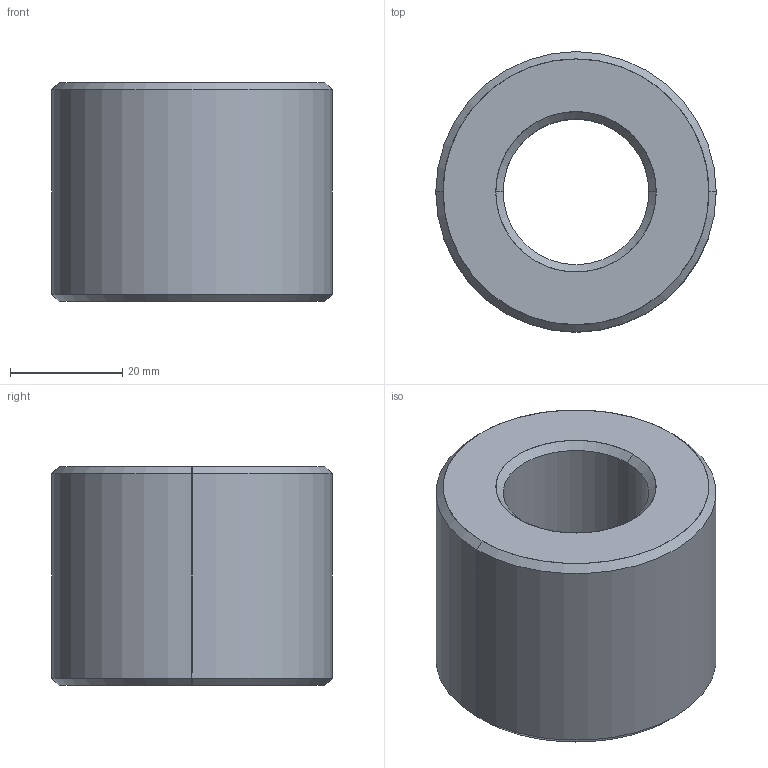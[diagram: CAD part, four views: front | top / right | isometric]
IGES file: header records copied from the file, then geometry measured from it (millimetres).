
Start section: SolidWorks IGES file using analytic representation for surfaces
Global section: file name: C:\Users\ianosborn\Desktop\L1339_v2\L1339_v2_20241024_IGES\L1339.R26-05.igs; native system: SolidWorks 2019; preprocessor: SolidWorks 2019; author: IanOsborn; date: 241024.151041; units: millimetre
Bounding box: 50 x 50 x 39 mm (x, y, z)
Surface area: 11813.2 mm2 (no closed solid volume)
Topology: 0 solids, 0 shells, 14 faces, 304 edges, 304 vertices
Faces by surface type: revolution 12, bspline 2
